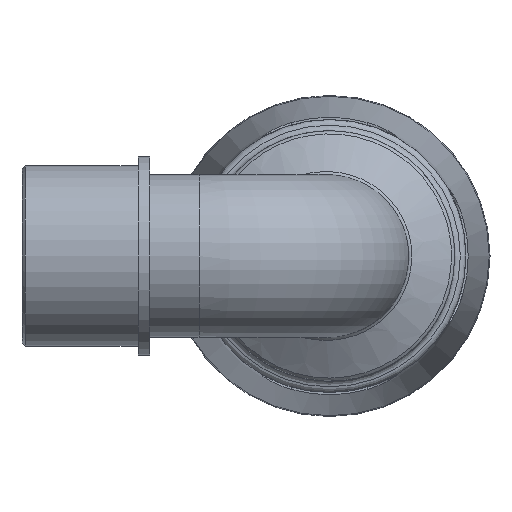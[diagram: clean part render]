
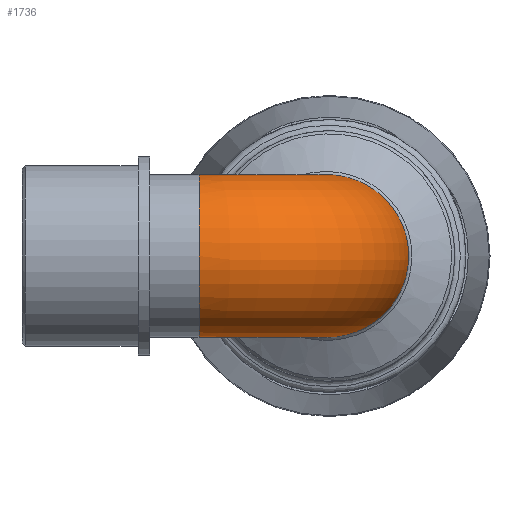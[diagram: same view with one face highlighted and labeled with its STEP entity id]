
A CAD part, left-side view. The second image highlights one B-rep face of the part: STEP entity #1736.
In plain terms, the highlighted toroidal (fillet/blend) face has major radius 19.093 mm and minor radius 11.899 mm.
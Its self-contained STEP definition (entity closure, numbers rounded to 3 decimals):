
#80=TOROIDAL_SURFACE('',#1855,19.093,11.898);
#90=FACE_BOUND('',#436,.T.);
#319=FACE_OUTER_BOUND('',#435,.T.);
#435=EDGE_LOOP('',(#1149));
#436=EDGE_LOOP('',(#1150));
#557=B_SPLINE_CURVE_WITH_KNOTS('',3,(#2617,#2618,#2619,#2620,#2621,#2622,
#2623,#2624,#2625,#2626,#2627,#2628,#2629,#2630,#2631,#2632,#2633),
 .UNSPECIFIED.,.T.,.F.,(4,1,1,1,1,1,1,1,1,1,1,1,1,1,4),(-3.142,
-2.693,-2.244,-1.795,-1.346,
-1.047,-0.449,-0.15,0.449,
0.898,1.346,1.795,2.244,2.693,
3.142),.UNSPECIFIED.);
#631=CIRCLE('',#1850,11.898);
#721=VERTEX_POINT('',#2615);
#728=VERTEX_POINT('',#2855);
#882=EDGE_CURVE('',#721,#721,#557,.T.);
#892=EDGE_CURVE('',#728,#728,#631,.T.);
#1149=ORIENTED_EDGE('',*,*,#882,.F.);
#1150=ORIENTED_EDGE('',*,*,#892,.T.);
#1736=ADVANCED_FACE('',(#319,#90),#80,.T.);
#1850=AXIS2_PLACEMENT_3D('',#2856,#2066,#2067);
#1855=AXIS2_PLACEMENT_3D('',#2864,#2076,#2077);
#2066=DIRECTION('center_axis',(0.,-1.,0.));
#2067=DIRECTION('ref_axis',(-1.,0.,0.));
#2076=DIRECTION('center_axis',(0.,0.,1.));
#2077=DIRECTION('ref_axis',(1.,0.,0.));
#2615=CARTESIAN_POINT('',(14.544,13.519,0.));
#2617=CARTESIAN_POINT('Ctrl Pts',(14.545,13.521,0.));
#2618=CARTESIAN_POINT('Ctrl Pts',(14.545,13.521,1.806));
#2619=CARTESIAN_POINT('Ctrl Pts',(14.535,12.391,5.419));
#2620=CARTESIAN_POINT('Ctrl Pts',(14.594,8.578,9.552));
#2621=CARTESIAN_POINT('Ctrl Pts',(14.673,3.511,11.946));
#2622=CARTESIAN_POINT('Ctrl Pts',(14.724,-1.458,12.029));
#2623=CARTESIAN_POINT('Ctrl Pts',(14.764,-6.646,10.145));
#2624=CARTESIAN_POINT('Ctrl Pts',(14.782,-10.162,6.509));
#2625=CARTESIAN_POINT('Ctrl Pts',(14.792,-12.022,0.666));
#2626=CARTESIAN_POINT('Ctrl Pts',(14.788,-11.151,-4.962));
#2627=CARTESIAN_POINT('Ctrl Pts',(14.767,-7.173,-9.747));
#2628=CARTESIAN_POINT('Ctrl Pts',(14.73,-2.086,-12.044));
#2629=CARTESIAN_POINT('Ctrl Pts',(14.673,3.513,-11.944));
#2630=CARTESIAN_POINT('Ctrl Pts',(14.594,8.578,-9.555));
#2631=CARTESIAN_POINT('Ctrl Pts',(14.534,12.391,-5.418));
#2632=CARTESIAN_POINT('Ctrl Pts',(14.545,13.521,-1.806));
#2633=CARTESIAN_POINT('Ctrl Pts',(14.545,13.521,0.));
#2855=CARTESIAN_POINT('',(11.898,19.093,0.));
#2856=CARTESIAN_POINT('Origin',(0.,19.093,0.));
#2864=CARTESIAN_POINT('Origin',(19.093,19.093,0.));
